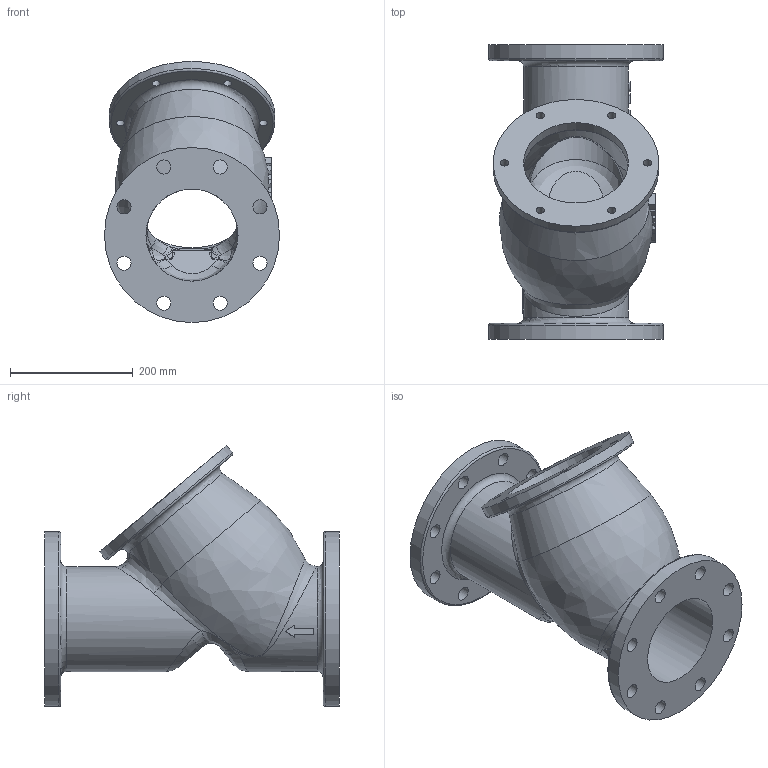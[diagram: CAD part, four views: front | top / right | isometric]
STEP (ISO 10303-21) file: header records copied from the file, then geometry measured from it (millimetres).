
FILE_DESCRIPTION( ( 'Unknown' ), '1' );
FILE_NAME( 'D:/Documentos Murilo/Desktop/VARB/2022/06 JUNHO/DESENHOS FILTRO Y 97/FILTRO 6/FILTRO6.stp', 'Unknown', ( 'Unknown' ), ( 'Unknown' ), 'PSStep 11.0', 'Unknown', ' ' );
FILE_SCHEMA( ( 'AUTOMOTIVE_DESIGN { 1 0 10303 214 1 1 1 1 }' ) );
Length unit declared in the file: millimetre
Products named in the file (1): 1
Bounding box: 285 x 480 x 425.38 mm (x, y, z)
Volume: 6522991.6 mm3; surface area: 941734.3 mm2
Topology: 1 solids, 3 shells, 221 faces, 581 edges, 372 vertices
Faces by surface type: plane 81, bspline 68, cylinder 53, torus 12, extrusion 7
Full cylindrical faces by diameter (mm): 13.5 x6, 23 x16, 150 x2, 171 x4, 270 x1, 285 x2
Entity records: 24121 total; most frequent: CARTESIAN_POINT 17682, ORIENTED_EDGE 1002, DIRECTION 801, EDGE_CURVE 501, VERTEX_POINT 339, AXIS2_PLACEMENT_3D 324, EDGE_LOOP 322, FACE_OUTER_BOUND 262
